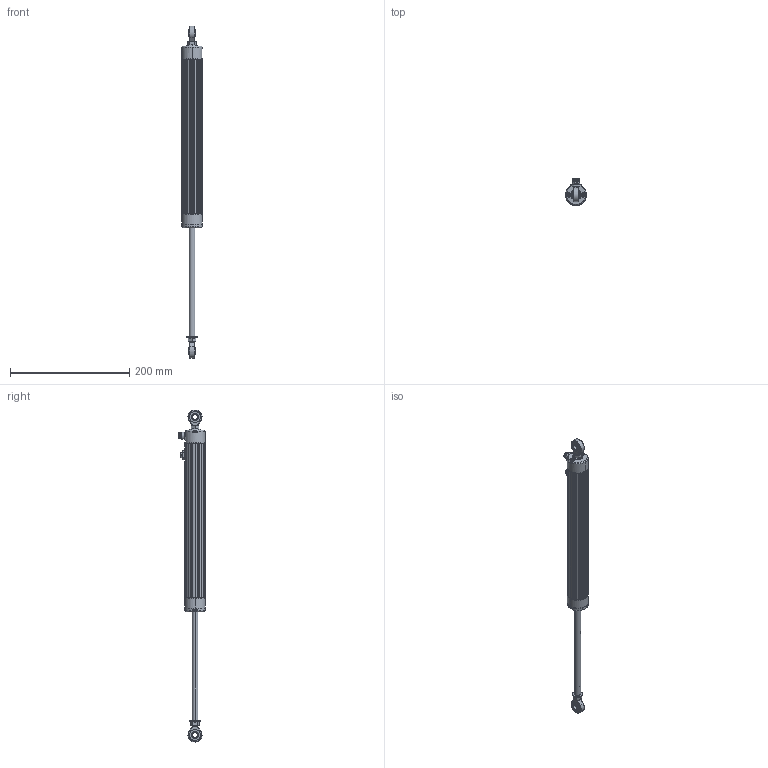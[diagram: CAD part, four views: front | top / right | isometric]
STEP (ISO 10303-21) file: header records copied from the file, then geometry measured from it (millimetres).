
FILE_DESCRIPTION (( 'STEP AP214' ), '1' );
FILE_NAME ('0175.STEP', '2009-01-28T08:05:36', ( 'novotechnik' ), ( 'novotechnik' ), 'SwSTEP 2.0', 'SolidWorks 2009', '' );
FILE_SCHEMA (( 'AUTOMOTIVE_DESIGN' ));
Length unit declared in the file: millimetre
Products named in the file (3): 0175; 0175_Bew
Assembly tree (2 placements, depth 2):
  0175
    0175_Bew
    0175
Bounding box: 35 x 45.1 x 557.6 mm (x, y, z)
Volume: 314893.1 mm3; surface area: 74592.2 mm2
Topology: 30 solids, 30 shells, 1046 faces, 2643 edges, 1679 vertices
Faces by surface type: cylinder 431, plane 324, cone 173, bspline 70, torus 32, sphere 16
Entity records: 46204 total; most frequent: CARTESIAN_POINT 9189, DIRECTION 5496, ORIENTED_EDGE 5282, EDGE_CURVE 2641, AXIS2_PLACEMENT_3D 2162, VERTEX_POINT 1679, CIRCLE 1181, VECTOR 1172
